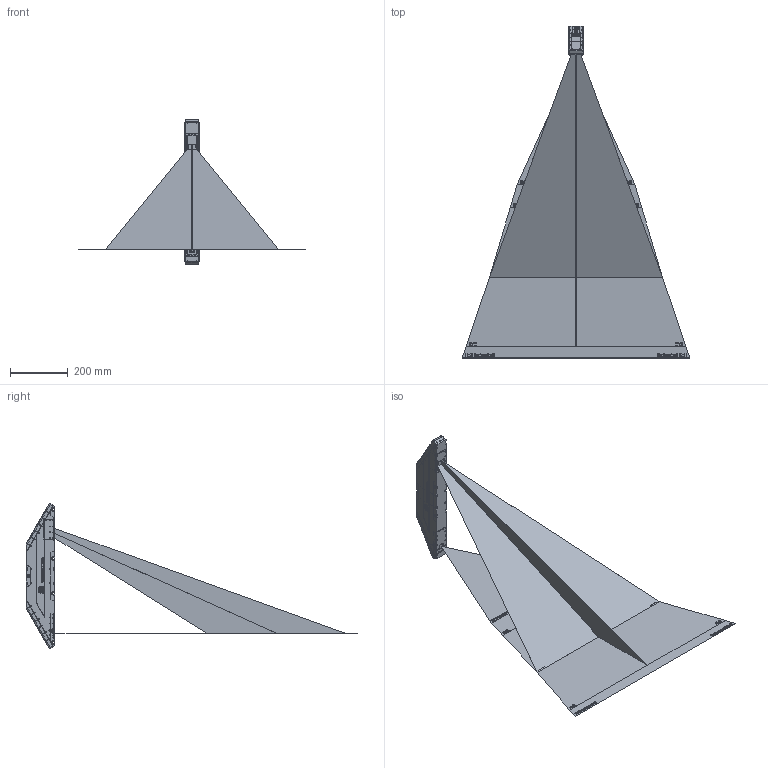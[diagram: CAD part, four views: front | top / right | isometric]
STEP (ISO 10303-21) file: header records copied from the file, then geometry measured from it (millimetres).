
FILE_DESCRIPTION (( 'STEP AP214' ), '1' );
FILE_NAME ('LLT30xx-600.STEP', '2023-05-22T09:38:33', ( '' ), ( '' ), 'SwSTEP 2.0', 'SolidWorks 2020', '' );
FILE_SCHEMA (( 'AUTOMOTIVE_DESIGN' ));
Length unit declared in the file: millimetre
Products named in the file (9): MMR MB 600; SMR extended MB 600; LLT30xx-600; EMR MB 600; EMR extended MB 600; Sensor; Optik MB600; SMR MB 600; Measurementrange MB600
Assembly tree (8 placements, depth 3):
  LLT30xx-600
    Sensor
    Measurementrange MB600
      Optik MB600
      SMR extended MB 600
      SMR MB 600
      MMR MB 600
      EMR MB 600
      EMR extended MB 600
Bounding box: 788 x 1150 x 499.8 mm (x, y, z)
Volume: 22815.6 mm3; surface area: 1952210 mm2
Topology: 6 solids, 101 shells, 9104 faces, 24736 edges, 16269 vertices
Faces by surface type: plane 6761, bspline 1051, cylinder 853, cone 275, torus 164
Full cylindrical faces by diameter (mm): 0.7 x12, 0.85 x8, 1 x8, 1.4 x8, 1.5 x16, 1.55 x1, 1.6 x61, 2 x68, 2.2 x32, 2.4 x27, 2.6 x5, 2.8 x3, 3.2 x3, 3.8 x56, 4.2 x64, 4.4 x4, 6.8 x5, 9.4 x3, 9.5 x1, 9.6 x4, 10.7 x2, 10.75 x2, 11 x12, 13.5 x2, 18 x1
Entity records: 420897 total; most frequent: CARTESIAN_POINT 111246, ORIENTED_EDGE 47418, DIRECTION 39715, EDGE_CURVE 23713, VECTOR 18987, LINE 18987, VERTEX_POINT 16002, EDGE_LOOP 10421
